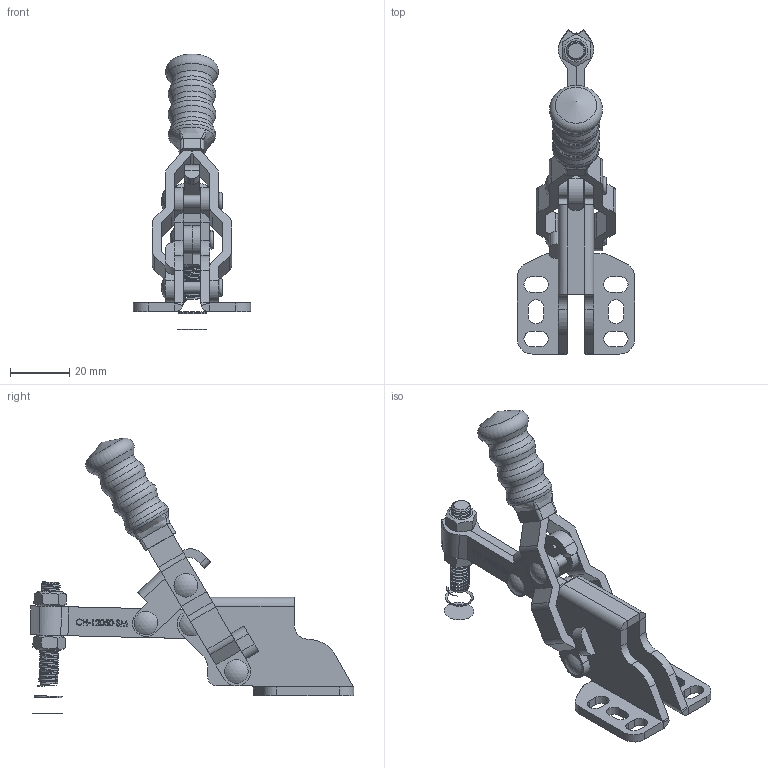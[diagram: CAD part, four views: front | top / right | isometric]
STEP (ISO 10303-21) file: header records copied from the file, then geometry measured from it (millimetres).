
FILE_DESCRIPTION(/* description */ ('STEP AP203'),/* implementation_level */ '2;1');
FILE_NAME(/* name */ 'D:\Vault_2016\Projekty\NASZ KATALOG\CLAMPTEK\STRONA\Vertical toggle clamp\CH-12050-SM\CH-12050-SM_OTWARTY.stp',/* time_stamp */ '2019-01-18T14:36:09+01:00',/* author */ ('CADENGINEERING4'),/* organization */ ('Î¢ÈíÖÐ¹ú'),/* preprocessor_version */ 'ST-DEVELOPER v17.2',/* originating_system */ 'Autodesk Inventor 2019',/* authorisation */ '');
FILE_SCHEMA (('AUTOMOTIVE_DESIGN { 1 0 10303 214 3 1 1 }'));
Products named in the file (10): CH-12050-SM_OTWARTY; CH-12050-SM BASE; CH-12050-SM-02 FIXED SPINDLE; CH-12050-03 STRAIGHT HANDLE; CH-12050-04 CONNECTING-PLATE; CH-12050-06; CH-12050-07; CH-12050-05; CH-12050-SM-07; CH-12050-SM-03
Assembly tree (12 placements, depth 2):
  CH-12050-SM_OTWARTY
    CH-12050-SM BASE
    CH-12050-SM-02 FIXED SPINDLE
    CH-12050-07  x2
    CH-12050-03 STRAIGHT HANDLE
    CH-12050-04 CONNECTING-PLATE
    CH-12050-06  x2
    CH-12050-05
    CH-12050-SM-03  x2
    CH-12050-SM-07
Bounding box: 39.7 x 109.58 x 93.34 mm (x, y, z)
Volume: 29522.5 mm3; surface area: 25636.1 mm2
Topology: 14 solids, 16 shells, 720 faces, 1995 edges, 1339 vertices
Faces by surface type: plane 325, bspline 209, cylinder 141, cone 25, torus 16, sphere 4
Full cylindrical faces by diameter (mm): 1.005 x1, 1.217 x1, 4 x20, 5.1 x6, 6.4 x26
Entity records: 41206 total; most frequent: CARTESIAN_POINT 24485, ORIENTED_EDGE 3798, DIRECTION 2704, EDGE_CURVE 1899, VERTEX_POINT 1275, LINE 1070, VECTOR 1070, AXIS2_PLACEMENT_3D 817
